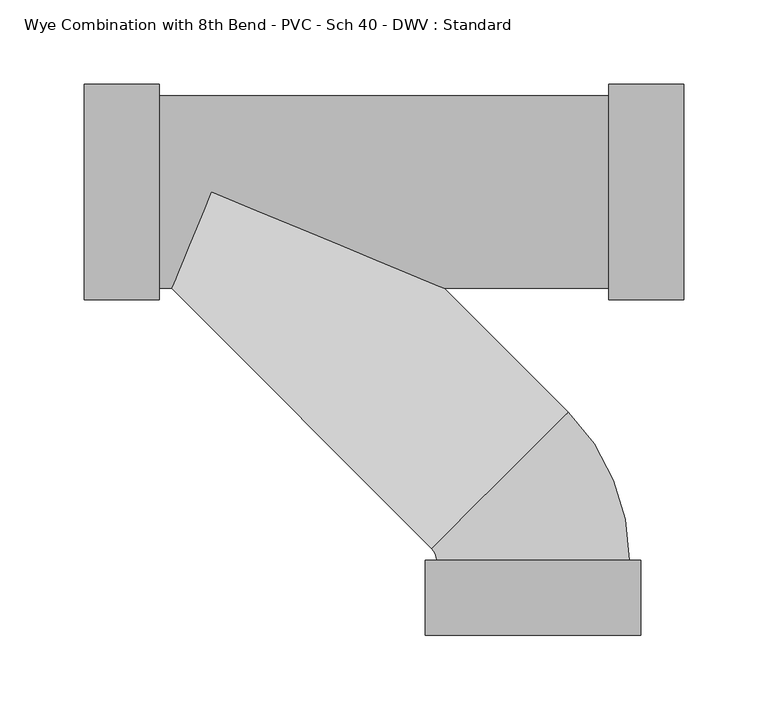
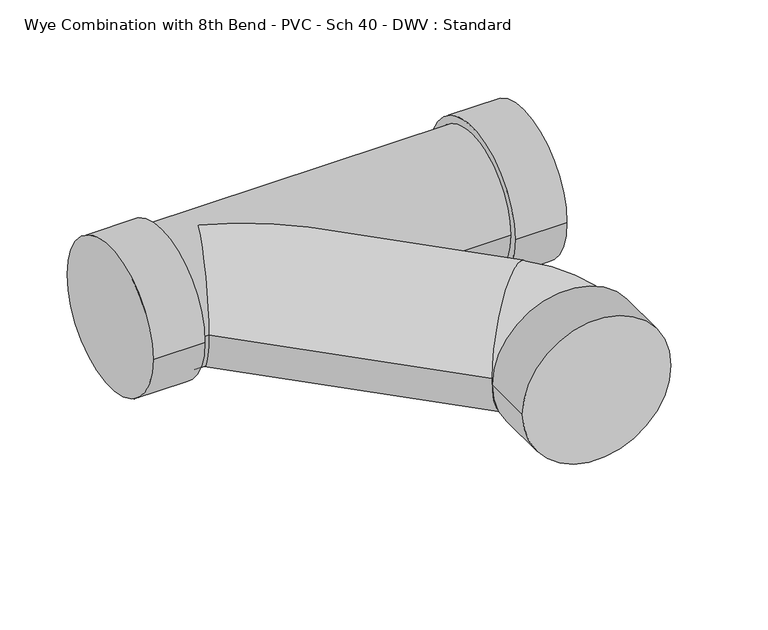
"""IFC4 building model written with IfcOpenShell, lengths in millimetres: pipe fitting geometry, Wye Combination with 8th Bend - PVC - Sch 40 - DWV : Standard."""

import ifcopenshell
import ifcopenshell.guid

model = None  # the IFC model being written
_history = None  # IfcOwnerHistory: only IFC2X3 demands one
_inside = {}  # id of a spatial element -> (the spatial element, [elements in it])
_under = {}  # id of a project, library or spatial element -> (it, [spatial elements below it])
_declared = {}  # id of a project -> (the project, [libraries it declares])
_typed = {}  # id of a type object -> (the type object, [elements of that type])
_made_of = {}  # id of a material, layer set ... -> (it, [elements and type objects made of it])


def new_model(schema):
    """Start an empty IFC model of exactly this schema.

    Asked for "IFC4X3", IfcOpenShell would pick the latest addendum, in which some entities
    have other attributes; the version numbers below select the first issue.
    IFC2X3 requires an IfcOwnerHistory on every rooted entity: one is made here for all.
    """
    global model, _history
    if schema == "IFC4X3":
        model = ifcopenshell.file(schema_version=(4, 3, 0, 0))
    else:
        model = ifcopenshell.file(schema=schema)
    _inside.clear()
    _under.clear()
    _declared.clear()
    _typed.clear()
    _made_of.clear()
    _history = None
    if model.schema == "IFC2X3":
        org = make("IfcOrganization", Name="unknown")
        user = make(
            "IfcPersonAndOrganization",
            ThePerson=make("IfcPerson", FamilyName="unknown"),
            TheOrganization=org,
        )
        app = make(
            "IfcApplication",
            ApplicationDeveloper=org,
            Version="unknown",
            ApplicationFullName="unknown",
            ApplicationIdentifier="unknown",
        )
        _history = make(
            "IfcOwnerHistory",
            OwningUser=user,
            OwningApplication=app,
            ChangeAction="ADDED",
            CreationDate=0,
        )
    return model


def make(cls, **values):
    """One entity of the class cls with the attributes given. An attribute that is None is left unset."""
    return model.create_entity(
        cls, **{name: value for name, value in values.items() if value is not None}
    )


def rooted(cls, **values):
    """An entity with a GlobalId (a new one), such as an element, a storey or a relation."""
    return make(cls, GlobalId=ifcopenshell.guid.new(), OwnerHistory=_history, **values)


def si_unit(unit_type, name, prefix=None):
    """IfcSIUnit, for example si_unit("LENGTHUNIT", "METRE", prefix="MILLI")."""
    return make("IfcSIUnit", UnitType=unit_type, Prefix=prefix, Name=name)


def assignment(units):
    """IfcUnitAssignment: the units of a project."""
    return None if units is None else make("IfcUnitAssignment", Units=units)


def point(xyz):
    """IfcCartesianPoint."""
    return None if xyz is None else make("IfcCartesianPoint", Coordinates=xyz)


def direction(xyz):
    """IfcDirection."""
    return None if xyz is None else make("IfcDirection", DirectionRatios=xyz)


def frame(location, z_axis=None, x_axis=None):
    """IfcAxis2Placement3D, a coordinate frame: its origin and axes. An axis left out is left unset."""
    return make(
        "IfcAxis2Placement3D",
        Location=point(location),
        Axis=direction(z_axis),
        RefDirection=direction(x_axis),
    )


def origin():
    """The frame at (0, 0, 0) with its axes left unset."""
    return frame((0.0, 0.0, 0.0))


def place(relative_to, where):
    """IfcLocalPlacement: puts the frame where relative to a parent placement (None: the world)."""
    return make(
        "IfcLocalPlacement", PlacementRelTo=relative_to, RelativePlacement=where
    )


def context(
    kind, dimensions, precision=None, world=None, true_north=None, identifier=None
):
    """IfcGeometricRepresentationContext, for example the 3D "Model" context."""
    return make(
        "IfcGeometricRepresentationContext",
        ContextIdentifier=identifier,
        ContextType=kind,
        CoordinateSpaceDimension=dimensions,
        Precision=precision,
        WorldCoordinateSystem=world,
        TrueNorth=true_north,
    )


def project(units=None, contexts=None):
    """IfcProject with its units and contexts."""
    return rooted(
        "IfcProject",
        Name="project",
        RepresentationContexts=contexts,
        UnitsInContext=assignment(units),
    )


def spatial(cls, under=None, at=None, **own):
    """A site, building, storey or space (cls), placed at a placement, below another one or the project."""
    s = rooted(cls, ObjectPlacement=at, **own)
    if under is not None:
        _under.setdefault(under.id(), (under, []))[1].append(s)
    return s


def circle_curve(where, radius):
    """IfcCircle in the frame where."""
    return make("IfcCircle", Position=where, Radius=radius)


def ellipse_curve(where, semi_axis1, semi_axis2):
    """IfcEllipse in the frame where."""
    return make(
        "IfcEllipse", Position=where, SemiAxis1=semi_axis1, SemiAxis2=semi_axis2
    )


def trimmed(basis, trim1, trim2, sense, master):
    """IfcTrimmedCurve: the piece of a basis curve between two trims."""
    return make(
        "IfcTrimmedCurve",
        BasisCurve=basis,
        Trim1=trim1,
        Trim2=trim2,
        SenseAgreement=sense,
        MasterRepresentation=master,
    )


def shape(context_of_items, identifier, shape_type, items):
    """IfcShapeRepresentation: the items that make up one representation, for example the "Body"."""
    return make(
        "IfcShapeRepresentation",
        ContextOfItems=context_of_items,
        RepresentationIdentifier=identifier,
        RepresentationType=shape_type,
        Items=items,
    )


def source(mapping_origin, context_of_items, identifier, shape_type, items):
    """IfcRepresentationMap: a shape defined once, which mapped items show again and again."""
    return make(
        "IfcRepresentationMap",
        MappingOrigin=mapping_origin,
        MappedRepresentation=shape(context_of_items, identifier, shape_type, items),
    )


def transform(
    local_origin,
    x_axis=None,
    y_axis=None,
    z_axis=None,
    scale=None,
    scale2=None,
    scale3=None,
    uniform=True,
):
    """IfcCartesianTransformationOperator3D, or its non-uniform kind. x_axis, y_axis, z_axis: its Axis1, 2, 3."""
    if uniform:
        return make(
            "IfcCartesianTransformationOperator3D",
            Axis1=direction(x_axis),
            Axis2=direction(y_axis),
            LocalOrigin=point(local_origin),
            Scale=scale,
            Axis3=direction(z_axis),
        )
    return make(
        "IfcCartesianTransformationOperator3DnonUniform",
        Axis1=direction(x_axis),
        Axis2=direction(y_axis),
        LocalOrigin=point(local_origin),
        Scale=scale,
        Axis3=direction(z_axis),
        Scale2=scale2,
        Scale3=scale3,
    )


def mapped(mapping_source, mapping_target):
    """IfcMappedItem: shows the shape of a source again, moved by a transform."""
    return make(
        "IfcMappedItem", MappingSource=mapping_source, MappingTarget=mapping_target
    )


def made_of(thing, what):
    """Note that an element or type object is made of a material, layer set ...; save() writes the relation."""
    if what is not None:
        _made_of.setdefault(what.id(), (what, []))[1].append(thing)
    return thing


def element(
    cls,
    number,
    at=None,
    inside=None,
    cuts=None,
    type_object=None,
    material=None,
    context=None,
    identifier="Body",
    shape_type=None,
    held_by="IfcProductDefinitionShape",
    body=None,
    shapes=None,
    **own,
):
    """One element of the class cls, such as IfcWall. Its Tag is "e" and its number.

    at: its placement. inside: the storey or other place that contains it. cuts: it is an
    opening in that element (IfcRelVoidsElement). A single representation is given by context,
    identifier, shape_type and body (its items); several are given by shapes. held_by: the class
    of the entity that holds the representations. save() writes the other relations.
    """
    e = rooted(cls, Tag="e%d" % number, ObjectPlacement=at, **own)
    if body is not None:
        shapes = [shape(context, identifier, shape_type, body)]
    if shapes is not None:
        e.Representation = make(held_by, Representations=shapes)
    if inside is not None:
        _inside.setdefault(inside.id(), (inside, []))[1].append(e)
    if cuts is not None:
        rooted(
            "IfcRelVoidsElement", RelatingBuildingElement=cuts, RelatedOpeningElement=e
        )
    if type_object is not None:
        _typed.setdefault(type_object.id(), (type_object, []))[1].append(e)
    return made_of(e, material)


def aggregate(whole, parts):
    """IfcRelAggregates: a whole, such as a stair, and the parts it consists of."""
    return rooted("IfcRelAggregates", RelatingObject=whole, RelatedObjects=parts)


def save(model, path):
    """Write the relations noted so far, then the file.

    IfcRelAggregates (storeys below a building ...), IfcRelContainedInSpatialStructure (elements
    in a storey), IfcRelDefinesByType, IfcRelAssociatesMaterial and IfcRelDeclares: one each for
    every whole, place, type object, material and project.
    """
    for whole, parts in _under.values():
        aggregate(whole, parts)
    for where, things in _inside.values():
        rooted(
            "IfcRelContainedInSpatialStructure",
            RelatedElements=things,
            RelatingStructure=where,
        )
    for kind, things in _typed.values():
        rooted("IfcRelDefinesByType", RelatedObjects=things, RelatingType=kind)
    for what, things in _made_of.values():
        rooted("IfcRelAssociatesMaterial", RelatedObjects=things, RelatingMaterial=what)
    for by, libraries in _declared.values():
        rooted("IfcRelDeclares", RelatingContext=by, RelatedDefinitions=libraries)
    model.write(path)


def plane_surface(at):
    """IfcPlane: the flat surface through the origin of the frame at, square to its z axis."""
    return make("IfcPlane", Position=at)


def cylinder_surface(at, radius):
    """IfcCylindricalSurface: all points at the distance radius from the z axis of the frame at."""
    return make("IfcCylindricalSurface", Position=at, Radius=radius)


def revolved_surface(curve, axis_point, axis_direction):
    """IfcSurfaceOfRevolution: the curve turned about the line through axis_point along axis_direction."""
    return make(
        "IfcSurfaceOfRevolution",
        SweptCurve=make("IfcArbitraryOpenProfileDef", ProfileType="CURVE", Curve=curve),
        AxisPosition=make("IfcAxis1Placement", Location=point(axis_point), Axis=direction(axis_direction)),
    )


def advanced_brep(points, edges, surfaces, faces):
    """IfcAdvancedBrep: a solid bounded by faces that lie on surfaces and meet in shared edges.

    An edge is (start, end): straight between two places in points (the first is 0);
    or (start, end, curve); or (start, end, curve, False) where it runs against its curve.
    A face is (place in surfaces, loops), or (place, loops, False) where it looks against
    its surface's normal. A loop lists edges by number (the first is 1), with a minus sign
    where the edge is run from its end to its start. The first loop is the outer one.
    """
    corners = [point(p) for p in points]
    vertices = [make("IfcVertexPoint", VertexGeometry=c) for c in corners]
    made = []
    for start, end, *more in edges:
        made.append(
            make(
                "IfcEdgeCurve",
                EdgeStart=vertices[start],
                EdgeEnd=vertices[end],
                EdgeGeometry=more[0] if more else make("IfcPolyline", Points=[corners[start], corners[end]]),
                SameSense=more[1] if len(more) > 1 else True,
            )
        )
    hull = []
    for where, loops, *sense in faces:
        bounds = []
        for j, loop in enumerate(loops):
            ring = [make("IfcOrientedEdge", EdgeElement=made[abs(k) - 1], Orientation=k > 0) for k in loop]
            bounds.append(
                make(
                    "IfcFaceOuterBound" if j == 0 else "IfcFaceBound",
                    Bound=make("IfcEdgeLoop", EdgeList=ring),
                    Orientation=True,
                )
            )
        hull.append(make("IfcAdvancedFace", Bounds=bounds, FaceSurface=surfaces[where], SameSense=sense[0] if sense else True))
    return make("IfcAdvancedBrep", Outer=make("IfcClosedShell", CfsFaces=hull))


def wye_combination_with_8th_bend_pvc_sch_40_dwv_standard_38fa7586(model_context):
    return source(origin(), model_context, "Body", "AdvancedBrep", [
        advanced_brep(
        [(-265.889751, -63.754, 0.0), (-265.889751, 63.754, 0.0), (-221.439751, -63.754, 0.0), (-221.439751, 63.754, 0.0), (-221.439751, -57.15, 0.0), (-221.439751, 57.15, 0.0), (44.853849, 57.15, 0.0), (-214.2211619, -57.15, 0.0), (-190.5488568, 0.0, 57.15), (-52.5765517, -57.15, 0.0), (44.853849, -57.15, 0.0), (-190.5488568, 0.0, -57.15), (44.853849, -63.754, 0.0), (44.853849, 63.754, 0.0), (89.303849, -63.754, 0.0), (89.303849, 63.754, 0.0), (-59.9913534, -211.3798085, 0.0), (-57.1271506, -218.2935821, 0.0), (57.1728487, -218.2816179, 0.0), (20.8309517, -130.5575034, 0.0), (-63.7311506, -218.2942734, 0.0), (63.7768487, -218.2809266, 0.0), (-63.7264979, -262.7442731, 0.0), (63.7815014, -262.7309264, 0.0)],
        [
            (0, 1, circle_curve(frame((-265.889751, 0.0, 0.0), z_axis=(-1.0, 0.0, 0.0), x_axis=(0.0, 1.0, 0.0)), 63.754)),
            (1, 0, circle_curve(frame((-265.889751, 0.0, 0.0), z_axis=(-1.0, 0.0, 0.0), x_axis=(0.0, 1.0, 0.0)), 63.754)),
            (2, 3, circle_curve(frame((-221.439751, 0.0, 0.0), z_axis=(1.0, 0.0, 0.0), x_axis=(0.0, 1.0, 0.0)), 63.754)),
            (3, 2, circle_curve(frame((-221.439751, 0.0, 0.0), z_axis=(1.0, 0.0, 0.0), x_axis=(0.0, 1.0, 0.0)), 63.754)),
            (4, 5, circle_curve(frame((-221.439751, 0.0, 0.0), z_axis=(-1.0, 0.0, 0.0), x_axis=(0.0, 1.0, 0.0)), 57.15)),
            (5, 4, circle_curve(frame((-221.439751, 0.0, 0.0), z_axis=(-1.0, 0.0, 0.0), x_axis=(0.0, 1.0, 0.0)), 57.15)),
            (0, 2),
            (3, 1),
            (6, 5),
            (4, 7),
            (7, 8, ellipse_curve(frame((-190.5488568, 0.0, 0.0), z_axis=(-0.9238795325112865, 0.38268343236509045, 0.0), x_axis=(-0.38268343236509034, -0.9238795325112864, 0.0)), 61.8587142, 57.15)),
            (8, 9, ellipse_curve(frame((-190.5488568, 0.0, 0.0), z_axis=(0.38268343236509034, 0.9238795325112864, 0.0), x_axis=(-0.9238795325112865, 0.38268343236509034, 0.0)), 149.3401469, 57.15)),
            (9, 10),
            (10, 6, circle_curve(frame((44.853849, 0.0, 0.0), z_axis=(-1.0, 0.0, 0.0), x_axis=(0.0, 1.0, 0.0)), 57.15)),
            (6, 10, circle_curve(frame((44.853849, 0.0, 0.0), z_axis=(-1.0, 0.0, 0.0), x_axis=(0.0, 1.0, 0.0)), 57.15)),
            (9, 11, ellipse_curve(frame((-190.5488568, 0.0, 0.0), z_axis=(0.38268343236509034, 0.9238795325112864, 0.0), x_axis=(-0.9238795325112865, 0.38268343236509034, 0.0)), 149.3401469, 57.15)),
            (11, 7, ellipse_curve(frame((-190.5488568, 0.0, 0.0), z_axis=(-0.9238795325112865, 0.38268343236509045, 0.0), x_axis=(-0.38268343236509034, -0.9238795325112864, 0.0)), 61.8587142, 57.15)),
            (12, 13, circle_curve(frame((44.853849, 0.0, 0.0), z_axis=(-1.0, 0.0, 0.0), x_axis=(0.0, 1.0, 0.0)), 63.754)),
            (13, 12, circle_curve(frame((44.853849, 0.0, 0.0), z_axis=(-1.0, 0.0, 0.0), x_axis=(0.0, 1.0, 0.0)), 63.754)),
            (14, 15, circle_curve(frame((89.303849, 0.0, 0.0), z_axis=(1.0, 0.0, 0.0), x_axis=(0.0, 1.0, 0.0)), 63.754)),
            (15, 14, circle_curve(frame((89.303849, 0.0, 0.0), z_axis=(1.0, 0.0, 0.0), x_axis=(0.0, 1.0, 0.0)), 63.754)),
            (12, 14),
            (15, 13),
            (16, 17, circle_curve(frame((-66.9061506, -218.2946057, 0.0), z_axis=(0.0, 0.0, -1.0), x_axis=(0.9999999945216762, 0.000104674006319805, 0.0)), 9.779)),
            (17, 18, circle_curve(frame((0.022849, -218.2876, 0.0), z_axis=(-0.00010467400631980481, 0.9999999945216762, 0.0), x_axis=(-0.9999999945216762, -0.00010467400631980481, 0.0)), 57.15)),
            (18, 19, circle_curve(frame((-66.9061506, -218.2946057, 0.0), z_axis=(0.0, 0.0, 1.0), x_axis=(0.9999999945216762, 0.000104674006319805, 0.0)), 124.079)),
            (19, 16, circle_curve(frame((-19.5802008, -170.968656, 0.0), z_axis=(0.7071067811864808, -0.7071067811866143, 0.0), x_axis=(-0.7071067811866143, -0.7071067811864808, 0.0)), 57.15)),
            (16, 19, circle_curve(frame((-19.5802008, -170.968656, 0.0), z_axis=(0.7071067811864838, -0.7071067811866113, 0.0), x_axis=(-0.7071067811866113, -0.7071067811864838, 0.0)), 57.15)),
            (18, 17, circle_curve(frame((0.022849, -218.2876, 0.0), z_axis=(-0.00010467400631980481, 0.9999999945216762, 0.0), x_axis=(-0.9999999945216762, -0.00010467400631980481, 0.0)), 57.15)),
            (19, 9),
            (7, 16),
            (20, 21, circle_curve(frame((0.022849, -218.2876, 0.0), z_axis=(-0.00010467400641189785, 0.9999999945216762, 0.0), x_axis=(0.9999999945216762, 0.00010467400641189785, 0.0)), 63.754)),
            (21, 20, circle_curve(frame((0.022849, -218.2876, 0.0), z_axis=(-0.00010467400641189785, 0.9999999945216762, 0.0), x_axis=(0.9999999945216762, 0.00010467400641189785, 0.0)), 63.754)),
            (22, 23, circle_curve(frame((0.0275018, -262.7375998, 0.0), z_axis=(0.00010467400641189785, -0.9999999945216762, 0.0), x_axis=(0.9999999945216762, 0.00010467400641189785, 0.0)), 63.754)),
            (23, 22, circle_curve(frame((0.0275018, -262.7375998, 0.0), z_axis=(0.00010467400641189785, -0.9999999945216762, 0.0), x_axis=(0.9999999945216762, 0.00010467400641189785, 0.0)), 63.754)),
            (20, 22),
            (23, 21),
        ],
        [
            plane_surface(frame((-265.889751, 0.0, 0.0), z_axis=(-1.0, 0.0, 0.0), x_axis=(0.0, 0.0, 1.0))),
            plane_surface(frame((-221.439751, 0.0, 0.0), z_axis=(1.0, 0.0, 0.0), x_axis=(0.0, 0.0, 1.0))),
            cylinder_surface(frame((-265.889751, 0.0, 0.0), z_axis=(-1.0, 0.0, 0.0), x_axis=(0.0, 1.0, 0.0)), 63.754),
            cylinder_surface(frame((-221.439751, 0.0, 0.0), z_axis=(-1.0, 0.0, 0.0), x_axis=(0.0, 1.0, 0.0)), 57.15),
            plane_surface(frame((44.853849, 0.0, 0.0), z_axis=(-1.0, 0.0, 0.0), x_axis=(0.0, 0.0, 1.0))),
            plane_surface(frame((89.303849, 0.0, 0.0), z_axis=(1.0, 0.0, 0.0), x_axis=(0.0, 0.0, 1.0))),
            cylinder_surface(frame((44.853849, 0.0, 0.0), z_axis=(-1.0, 0.0, 0.0), x_axis=(0.0, 1.0, 0.0)), 63.754),
            revolved_surface(trimmed(ellipse_curve(frame((0.022849, -218.2876, 0.0), z_axis=(0.00010467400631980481, -0.9999999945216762, 0.0), x_axis=(-0.9999999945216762, -0.00010467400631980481, 0.0)), 57.15, 57.15), [point((57.1728487, -218.2816179, 0.0))], [point((-57.1271506, -218.2935821, 0.0))], True, "CARTESIAN"), (-66.9061506, -218.2946057, 0.0), (0.0, 0.0, 1.0)),
            revolved_surface(trimmed(ellipse_curve(frame((0.022849, -218.2876, 0.0), z_axis=(0.00010467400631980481, -0.9999999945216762, 0.0), x_axis=(-0.9999999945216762, -0.00010467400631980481, 0.0)), 57.15, 57.15), [point((-57.1271506, -218.2935821, 0.0))], [point((57.1728487, -218.2816179, 0.0))], True, "CARTESIAN"), (-66.9061506, -218.2946057, 0.0), (0.0, 0.0, 1.0)),
            cylinder_surface(frame((-19.5802008, -170.968656, 0.0), z_axis=(0.7071067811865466, -0.7071067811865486, 0.0), x_axis=(-0.7071067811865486, -0.7071067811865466, 0.0)), 57.15),
            plane_surface(frame((0.022849, -218.2876, 0.0), z_axis=(-0.00010467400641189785, 0.9999999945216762, 0.0), x_axis=(0.0, 0.0, 1.0))),
            plane_surface(frame((0.0275018, -262.7375998, 0.0), z_axis=(0.00010467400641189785, -0.9999999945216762, 0.0), x_axis=(0.0, 0.0, 1.0))),
            cylinder_surface(frame((0.022849, -218.2876, 0.0), z_axis=(-0.00010467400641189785, 0.9999999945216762, 0.0), x_axis=(0.9999999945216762, 0.00010467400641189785, 0.0)), 63.754),
        ],
        [
            (0, [[1, 2]]),
            (1, [[3, 4], [5, 6]]),
            (2, [[-1, 7, -4, 8]]),
            (2, [[-2, -8, -3, -7]]),
            (3, [[9, -5, 10, 11, 12, 13, 14]]),
            (3, [[-9, 15, -13, 16, 17, -10, -6]]),
            (4, [[18, 19], [-14, -15]]),
            (5, [[20, 21]]),
            (6, [[-18, 22, -21, 23]]),
            (6, [[-19, -23, -20, -22]]),
            (7, [[24, 25, 26, 27]]),
            (8, [[-24, 28, -26, 29]]),
            (9, [[-27, 30, -12, -11, 31]]),
            (9, [[-28, -31, -17, -16, -30]]),
            (10, [[32, 33], [-25, -29]]),
            (11, [[34, 35]]),
            (12, [[-32, 36, -35, 37]]),
            (12, [[-33, -37, -34, -36]]),
        ],
    ),
    ])


if __name__ == "__main__":
    model = new_model("IFC4")
    model_context = context("Model", 3, world=origin())
    ifc_project = project(units=[si_unit("LENGTHUNIT", "METRE", prefix="MILLI")], contexts=[model_context])
    site = spatial("IfcSite", under=ifc_project)
    building = spatial("IfcBuilding", under=site)
    placement = place(None, origin())
    wye_combination_with_8th_bend_pvc_sch_40_dwv_standard_shape = wye_combination_with_8th_bend_pvc_sch_40_dwv_standard_38fa7586(model_context)
    element("IfcPipeFitting", 1, ObjectType="Wye Combination with 8th Bend - PVC - Sch 40 - DWV : Standard", at=placement, inside=building, context=model_context, shape_type="MappedRepresentation", body=[
        mapped(wye_combination_with_8th_bend_pvc_sch_40_dwv_standard_shape, transform((0.0, 0.0, 0.0), x_axis=(1.0, 0.0, 0.0), y_axis=(0.0, 1.0, 0.0), z_axis=(0.0, 0.0, 1.0))),
    ])
    save(model, "model.ifc")
